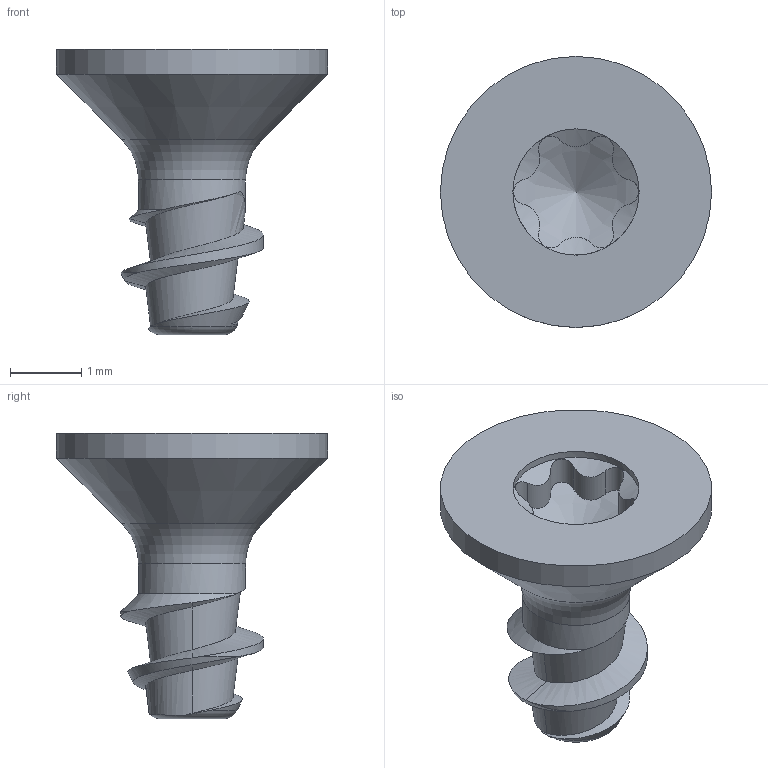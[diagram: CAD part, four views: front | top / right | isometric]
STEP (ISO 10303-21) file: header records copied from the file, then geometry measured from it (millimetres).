
FILE_DESCRIPTION(/* description */ (''),/* implementation_level */ '2;1');
FILE_NAME(/* name */ 'KN1041-STS-20x4-T6.step',/* time_stamp */ '2017-10-17T14:06:48+02:00',/* author */ (''),/* organization */ (''),/* preprocessor_version */ 'ST-DEVELOPER v16',/* originating_system */ 'SIEMENS PLM Software NX 10.0',/* authorisation */ '');
FILE_SCHEMA (('AUTOMOTIVE_DESIGN { 1 0 10303 214 3 1 1 1 }'));
Length unit declared in the file: millimetre
Products named in the file (1): KN1041-STS-20x4-T6
Bounding box: 3.8 x 3.8 x 4 mm (x, y, z)
Volume: 13.5 mm3; surface area: 48.2 mm2
Topology: 1 solids, 1 shells, 34 faces, 89 edges, 57 vertices
Faces by surface type: cylinder 16, bspline 9, cone 5, torus 2, plane 2
Full cylindrical faces by diameter (mm): 1.5 x1, 1.77 x1, 3.8 x1
Entity records: 1933 total; most frequent: CARTESIAN_POINT 1252, ORIENTED_EDGE 150, DIRECTION 92, EDGE_CURVE 75, VERTEX_POINT 52, B_SPLINE_CURVE_WITH_KNOTS 46, EDGE_LOOP 42, AXIS2_PLACEMENT_3D 37
